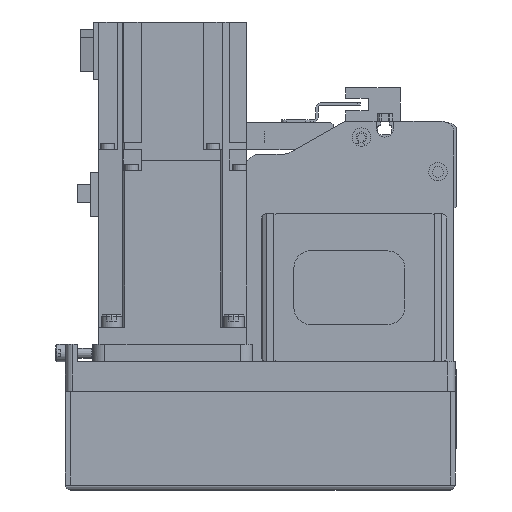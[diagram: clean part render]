
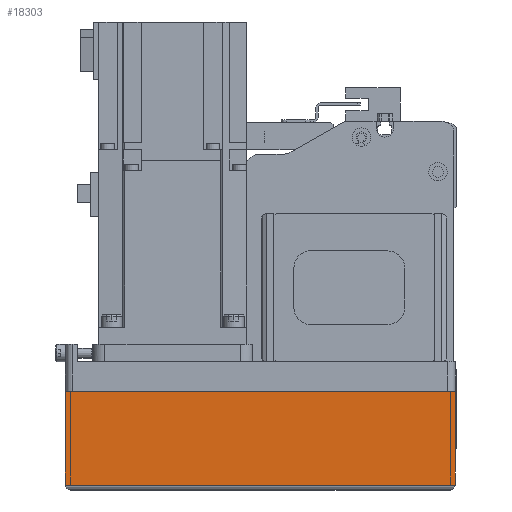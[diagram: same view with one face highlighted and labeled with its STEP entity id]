
A CAD part, left-side view. The second image highlights one B-rep face of the part: STEP entity #18303.
In plain terms, the highlighted planar face has unit normal (-1, 0, 0) as drawn and (0, -1, 0) by its records, which use the part's own axes.
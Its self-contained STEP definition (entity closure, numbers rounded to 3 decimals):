
#2844=ORIENTED_EDGE('',*,*,#7339,.F.);
#2845=ORIENTED_EDGE('',*,*,#7321,.F.);
#2846=ORIENTED_EDGE('',*,*,#7356,.T.);
#2847=ORIENTED_EDGE('',*,*,#7411,.T.);
#7321=EDGE_CURVE('',#9759,#9760,#11629,.T.);
#7339=EDGE_CURVE('',#9760,#9776,#11647,.T.);
#7356=EDGE_CURVE('',#9759,#9786,#11660,.T.);
#7411=EDGE_CURVE('',#9786,#9776,#11688,.T.);
#9759=VERTEX_POINT('',#28052);
#9760=VERTEX_POINT('',#28053);
#9776=VERTEX_POINT('',#28090);
#9786=VERTEX_POINT('',#28120);
#11629=LINE('',#28051,#13289);
#11647=LINE('',#28089,#13307);
#11660=LINE('',#28121,#13320);
#11688=LINE('',#28219,#13348);
#13289=VECTOR('',#22451,1000.);
#13307=VECTOR('',#22475,1000.);
#13320=VECTOR('',#22504,1000.);
#13348=VECTOR('',#22632,1000.);
#14837=EDGE_LOOP('',(#2844,#2845,#2846,#2847));
#16277=FACE_BOUND('',#14837,.T.);
#17544=PLANE('',#19636);
#18303=ADVANCED_FACE('',(#16277),#17544,.T.);
#19636=AXIS2_PLACEMENT_3D('',#28220,#22633,#22634);
#22451=DIRECTION('',(1.,0.,0.));
#22475=DIRECTION('',(0.,0.,-1.));
#22504=DIRECTION('',(0.,0.,-1.));
#22632=DIRECTION('',(1.,0.,0.));
#22633=DIRECTION('',(0.,-1.,0.));
#22634=DIRECTION('',(0.,0.,-1.));
#28051=CARTESIAN_POINT('',(-158.,-39.,-12.1));
#28052=CARTESIAN_POINT('',(-158.,-39.,-12.1));
#28053=CARTESIAN_POINT('',(0.,-39.,-12.1));
#28089=CARTESIAN_POINT('',(0.,-39.,-12.1));
#28090=CARTESIAN_POINT('',(0.,-39.,-50.));
#28120=CARTESIAN_POINT('',(-158.,-39.,-50.));
#28121=CARTESIAN_POINT('',(-158.,-39.,-12.1));
#28219=CARTESIAN_POINT('',(-158.,-39.,-50.));
#28220=CARTESIAN_POINT('',(-158.,-39.,-12.1));
